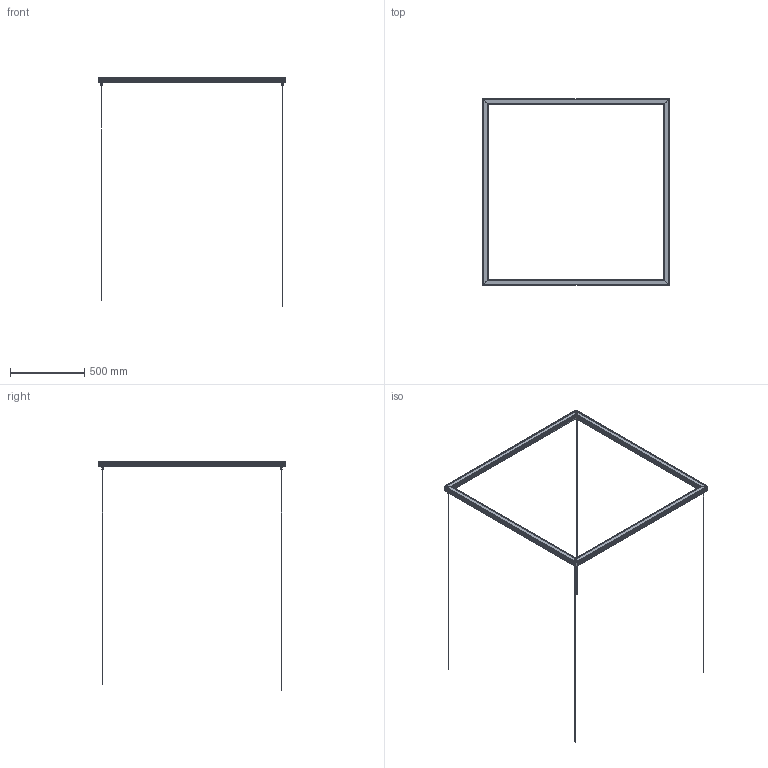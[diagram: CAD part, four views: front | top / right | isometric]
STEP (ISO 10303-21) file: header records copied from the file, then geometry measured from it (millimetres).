
FILE_DESCRIPTION(/* description */ ('Unknown'),/* implementation_level */ '2;1');
FILE_NAME(/* name */ 'TOUR Q 49.4',/* time_stamp */ '2023-01-24T08:20:16-05:00',/* author */ ('Unknown'),/* organization */ ('Unknown'),/* preprocessor_version */ 'ST-DEVELOPER v18.1',/* originating_system */ 'Solid Edge',/* authorisation */ 'Unknown');
FILE_SCHEMA (('AUTOMOTIVE_DESIGN {1 0 10303 214 3 1 1}'));
Products named in the file (1): TOUR Q 49.4
Bounding box: 1256 x 1255 x 1545 mm (x, y, z)
Volume: 2081932.6 mm3; surface area: 1866057.3 mm2
Topology: 37 solids, 37 shells, 1670 faces, 4310 edges, 2766 vertices
Faces by surface type: plane 1114, cylinder 488, cone 42, torus 14, bspline 12
Full cylindrical faces by diameter (mm): 2.3 x4, 2.98 x10, 3 x24, 3.5 x4, 4.134 x4, 4.3 x2, 5 x4, 5.7 x10, 6.8 x4, 8.917 x4, 10 x10, 12.4 x4
Entity records: 58553 total; most frequent: CARTESIAN_POINT 10191, ORIENTED_EDGE 8256, DIRECTION 8158, EDGE_CURVE 4128, LINE 2808, VECTOR 2808, VERTEX_POINT 2728, AXIS2_PLACEMENT_3D 2675
